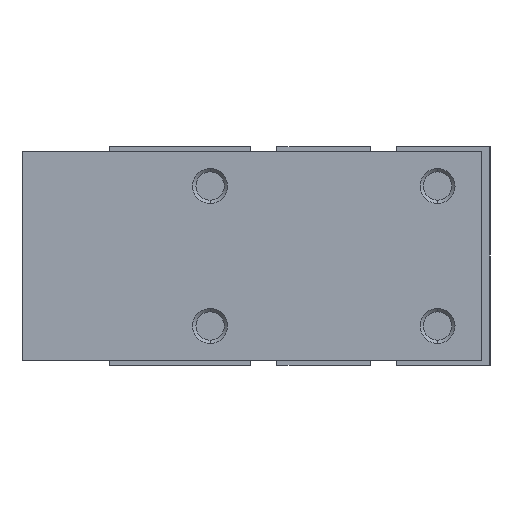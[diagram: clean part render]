
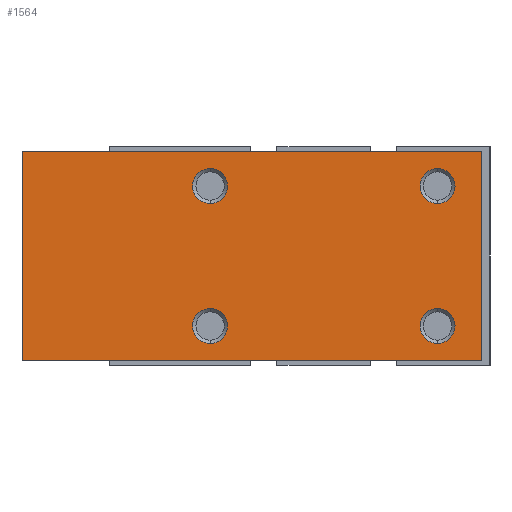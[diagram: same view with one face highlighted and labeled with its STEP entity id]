
A CAD part, left-side view. The second image highlights one B-rep face of the part: STEP entity #1564.
In plain terms, the highlighted planar face has unit normal (-1, 0, 0).
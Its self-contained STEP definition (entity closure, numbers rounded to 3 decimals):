
#14 = VERTEX_POINT ( 'NONE', #4025 ) ;
#85 = DIRECTION ( 'NONE',  ( 0., 0., 1. ) ) ;
#135 = AXIS2_PLACEMENT_3D ( 'NONE', #2915, #2009, #5380 ) ;
#144 = DIRECTION ( 'NONE',  ( -1., 0., 0. ) ) ;
#150 = DIRECTION ( 'NONE',  ( 0., 0., -1. ) ) ;
#203 = FACE_BOUND ( 'NONE', #4373, .T. ) ;
#229 = DIRECTION ( 'NONE',  ( 0., 0., 1. ) ) ;
#310 = EDGE_LOOP ( 'NONE', ( #4306, #3961 ) ) ;
#336 = CARTESIAN_POINT ( 'NONE',  ( -14., 34.5, 12. ) ) ;
#406 = EDGE_CURVE ( 'NONE', #754, #4989, #1108, .T. ) ;
#450 = CIRCLE ( 'NONE', #1739, 2. ) ;
#466 = CIRCLE ( 'NONE', #3932, 2. ) ;
#528 = CARTESIAN_POINT ( 'NONE',  ( -14., -13., 8. ) ) ;
#634 = VERTEX_POINT ( 'NONE', #2905 ) ;
#648 = DIRECTION ( 'NONE',  ( 0., -1., 0. ) ) ;
#663 = ORIENTED_EDGE ( 'NONE', *, *, #3620, .F. ) ;
#754 = VERTEX_POINT ( 'NONE', #757 ) ;
#757 = CARTESIAN_POINT ( 'NONE',  ( -14., 34.5, 12. ) ) ;
#801 = FACE_OUTER_BOUND ( 'NONE', #1183, .T. ) ;
#833 = AXIS2_PLACEMENT_3D ( 'NONE', #5826, #4471, #2475 ) ;
#852 = VERTEX_POINT ( 'NONE', #6168 ) ;
#933 = VECTOR ( 'NONE', #648, 1000. ) ;
#964 = AXIS2_PLACEMENT_3D ( 'NONE', #3135, #5911, #229 ) ;
#977 = DIRECTION ( 'NONE',  ( -1., 0., 0. ) ) ;
#994 = EDGE_CURVE ( 'NONE', #3515, #634, #450, .T. ) ;
#1034 = CARTESIAN_POINT ( 'NONE',  ( -14., 13., -8. ) ) ;
#1108 = LINE ( 'NONE', #2916, #3604 ) ;
#1152 = CARTESIAN_POINT ( 'NONE',  ( -14., -13., -8. ) ) ;
#1177 = EDGE_CURVE ( 'NONE', #4830, #4062, #1935, .T. ) ;
#1183 = EDGE_LOOP ( 'NONE', ( #5640, #5336, #4703, #2541 ) ) ;
#1215 = ORIENTED_EDGE ( 'NONE', *, *, #4609, .F. ) ;
#1230 = DIRECTION ( 'NONE',  ( -1., 0., 0. ) ) ;
#1251 = EDGE_LOOP ( 'NONE', ( #663, #3553 ) ) ;
#1518 = EDGE_CURVE ( 'NONE', #4989, #14, #3171, .T. ) ;
#1521 = CARTESIAN_POINT ( 'NONE',  ( -14., 34.5, 12. ) ) ;
#1564 = ADVANCED_FACE ( 'NONE', ( #801, #3047, #4948, #203, #2700 ), #5922, .F. ) ;
#1646 = DIRECTION ( 'NONE',  ( 1., 0., 0. ) ) ;
#1696 = CARTESIAN_POINT ( 'NONE',  ( -14., -13., -10. ) ) ;
#1699 = CARTESIAN_POINT ( 'NONE',  ( -14., -13., 8. ) ) ;
#1739 = AXIS2_PLACEMENT_3D ( 'NONE', #1034, #977, #5339 ) ;
#1775 = CARTESIAN_POINT ( 'NONE',  ( -14., -18., 12. ) ) ;
#1781 = VERTEX_POINT ( 'NONE', #5740 ) ;
#1794 = CARTESIAN_POINT ( 'NONE',  ( -14., -18., 12. ) ) ;
#1810 = EDGE_CURVE ( 'NONE', #3569, #4524, #466, .T. ) ;
#1831 = CIRCLE ( 'NONE', #833, 2. ) ;
#1935 = CIRCLE ( 'NONE', #5423, 2. ) ;
#1970 = EDGE_CURVE ( 'NONE', #4524, #3569, #4741, .T. ) ;
#2009 = DIRECTION ( 'NONE',  ( -1., 0., 0. ) ) ;
#2144 = DIRECTION ( 'NONE',  ( 0., 0., 1. ) ) ;
#2229 = DIRECTION ( 'NONE',  ( 0., 1., 0. ) ) ;
#2237 = CARTESIAN_POINT ( 'NONE',  ( -14., 13., 10. ) ) ;
#2344 = VERTEX_POINT ( 'NONE', #1775 ) ;
#2351 = DIRECTION ( 'NONE',  ( 0., 0., -1. ) ) ;
#2475 = DIRECTION ( 'NONE',  ( 0., 0., 1. ) ) ;
#2541 = ORIENTED_EDGE ( 'NONE', *, *, #406, .T. ) ;
#2700 = FACE_BOUND ( 'NONE', #2759, .T. ) ;
#2759 = EDGE_LOOP ( 'NONE', ( #3679, #4835 ) ) ;
#2827 = LINE ( 'NONE', #1794, #3125 ) ;
#2905 = CARTESIAN_POINT ( 'NONE',  ( -14., 13., -6. ) ) ;
#2915 = CARTESIAN_POINT ( 'NONE',  ( -14., 13., -8. ) ) ;
#2916 = CARTESIAN_POINT ( 'NONE',  ( -14., 34.5, 12. ) ) ;
#2923 = DIRECTION ( 'NONE',  ( 0., 0., 1. ) ) ;
#2939 = AXIS2_PLACEMENT_3D ( 'NONE', #336, #1646, #2229 ) ;
#3047 = FACE_BOUND ( 'NONE', #1251, .T. ) ;
#3125 = VECTOR ( 'NONE', #2351, 1000. ) ;
#3135 = CARTESIAN_POINT ( 'NONE',  ( -14., 13., 8. ) ) ;
#3171 = LINE ( 'NONE', #3535, #4635 ) ;
#3173 = EDGE_CURVE ( 'NONE', #754, #2344, #5385, .T. ) ;
#3237 = AXIS2_PLACEMENT_3D ( 'NONE', #528, #3472, #2923 ) ;
#3256 = EDGE_CURVE ( 'NONE', #852, #1781, #4214, .T. ) ;
#3327 = AXIS2_PLACEMENT_3D ( 'NONE', #1699, #1230, #3592 ) ;
#3472 = DIRECTION ( 'NONE',  ( -1., 0., 0. ) ) ;
#3515 = VERTEX_POINT ( 'NONE', #3695 ) ;
#3535 = CARTESIAN_POINT ( 'NONE',  ( -14., 34.5, -12. ) ) ;
#3553 = ORIENTED_EDGE ( 'NONE', *, *, #994, .F. ) ;
#3569 = VERTEX_POINT ( 'NONE', #5144 ) ;
#3592 = DIRECTION ( 'NONE',  ( 0., 0., 1. ) ) ;
#3604 = VECTOR ( 'NONE', #150, 1000. ) ;
#3620 = EDGE_CURVE ( 'NONE', #634, #3515, #5111, .T. ) ;
#3665 = DIRECTION ( 'NONE',  ( 0., -1., 0. ) ) ;
#3679 = ORIENTED_EDGE ( 'NONE', *, *, #1970, .F. ) ;
#3695 = CARTESIAN_POINT ( 'NONE',  ( -14., 13., -10. ) ) ;
#3749 = EDGE_CURVE ( 'NONE', #1781, #852, #6131, .T. ) ;
#3932 = AXIS2_PLACEMENT_3D ( 'NONE', #5824, #144, #85 ) ;
#3961 = ORIENTED_EDGE ( 'NONE', *, *, #3256, .F. ) ;
#4002 = EDGE_CURVE ( 'NONE', #2344, #14, #2827, .T. ) ;
#4025 = CARTESIAN_POINT ( 'NONE',  ( -14., -18., -12. ) ) ;
#4062 = VERTEX_POINT ( 'NONE', #5819 ) ;
#4214 = CIRCLE ( 'NONE', #3237, 2. ) ;
#4306 = ORIENTED_EDGE ( 'NONE', *, *, #3749, .F. ) ;
#4373 = EDGE_LOOP ( 'NONE', ( #1215, #4731 ) ) ;
#4471 = DIRECTION ( 'NONE',  ( -1., 0., 0. ) ) ;
#4524 = VERTEX_POINT ( 'NONE', #2237 ) ;
#4609 = EDGE_CURVE ( 'NONE', #4062, #4830, #1831, .T. ) ;
#4635 = VECTOR ( 'NONE', #3665, 1000. ) ;
#4703 = ORIENTED_EDGE ( 'NONE', *, *, #3173, .F. ) ;
#4731 = ORIENTED_EDGE ( 'NONE', *, *, #1177, .F. ) ;
#4741 = CIRCLE ( 'NONE', #964, 2. ) ;
#4830 = VERTEX_POINT ( 'NONE', #1696 ) ;
#4835 = ORIENTED_EDGE ( 'NONE', *, *, #1810, .F. ) ;
#4898 = CARTESIAN_POINT ( 'NONE',  ( -14., 34.5, -12. ) ) ;
#4948 = FACE_BOUND ( 'NONE', #310, .T. ) ;
#4987 = DIRECTION ( 'NONE',  ( -1., 0., 0. ) ) ;
#4989 = VERTEX_POINT ( 'NONE', #4898 ) ;
#5111 = CIRCLE ( 'NONE', #135, 2. ) ;
#5144 = CARTESIAN_POINT ( 'NONE',  ( -14., 13., 6. ) ) ;
#5336 = ORIENTED_EDGE ( 'NONE', *, *, #4002, .F. ) ;
#5339 = DIRECTION ( 'NONE',  ( 0., 0., 1. ) ) ;
#5380 = DIRECTION ( 'NONE',  ( 0., 0., 1. ) ) ;
#5385 = LINE ( 'NONE', #1521, #933 ) ;
#5423 = AXIS2_PLACEMENT_3D ( 'NONE', #1152, #4987, #2144 ) ;
#5640 = ORIENTED_EDGE ( 'NONE', *, *, #1518, .T. ) ;
#5740 = CARTESIAN_POINT ( 'NONE',  ( -14., -13., 10. ) ) ;
#5819 = CARTESIAN_POINT ( 'NONE',  ( -14., -13., -6. ) ) ;
#5824 = CARTESIAN_POINT ( 'NONE',  ( -14., 13., 8. ) ) ;
#5826 = CARTESIAN_POINT ( 'NONE',  ( -14., -13., -8. ) ) ;
#5911 = DIRECTION ( 'NONE',  ( -1., 0., 0. ) ) ;
#5922 = PLANE ( 'NONE',  #2939 ) ;
#6131 = CIRCLE ( 'NONE', #3327, 2. ) ;
#6168 = CARTESIAN_POINT ( 'NONE',  ( -14., -13., 6. ) ) ;
